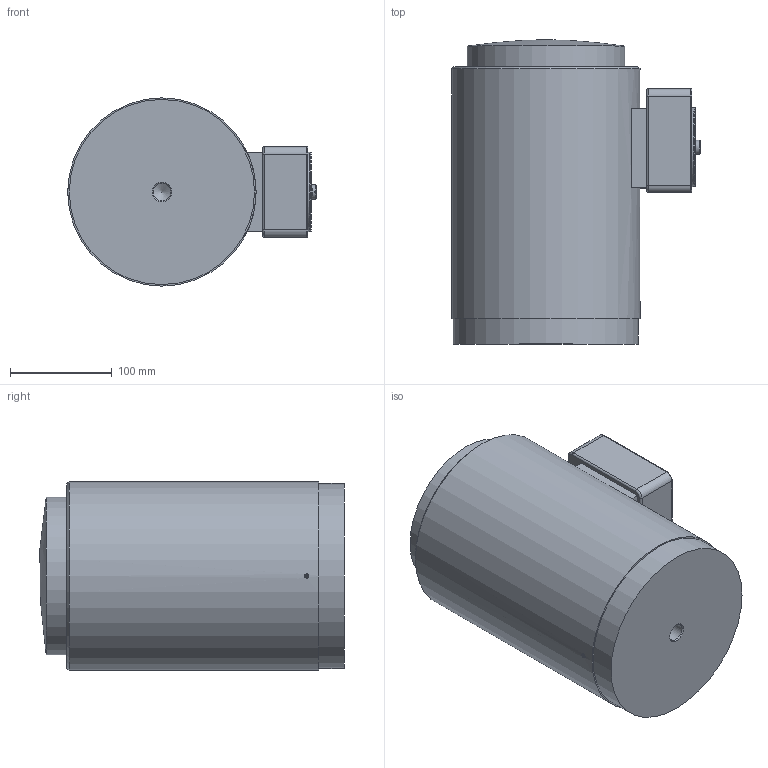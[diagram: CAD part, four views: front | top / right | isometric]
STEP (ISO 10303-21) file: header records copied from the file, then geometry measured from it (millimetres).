
FILE_DESCRIPTION(/* description */ (''),/* implementation_level */ '2;1');
FILE_NAME(/* name */ 'WNI300TC.stp',/* time_stamp */ '2024-12-04T16:20:58Z',/* author */ ('Achacko'),/* organization */ (''),/* preprocessor_version */ 'ST-DEVELOPER v20',/* originating_system */ 'Autodesk Inventor 2025',/* authorisation */ '');
FILE_SCHEMA (('AUTOMOTIVE_DESIGN { 1 0 10303 214 3 1 1 }'));
Length unit declared in the file: millimetre
Products named in the file (1): WNI300TC_Simplify_1
Bounding box: 244.17 x 299.22 x 185 mm (x, y, z)
Volume: 8191040.1 mm3; surface area: 562159.4 mm2
Topology: 5 solids, 44 shells, 782 faces, 1880 edges, 1198 vertices
Faces by surface type: plane 429, cylinder 213, cone 57, torus 50, bspline 32, sphere 1
Full cylindrical faces by diameter (mm): 2.1 x1, 2.5 x2, 3.242 x8, 4 x8, 4.1 x2, 4.2 x8, 4.3 x2, 5 x6, 5.2 x4, 5.54 x4, 6.647 x2, 7 x1, 8 x4, 8.1 x1, 8.5 x4, 8.7 x4, 9 x4, 12 x3, 14 x1, 15 x1, 15.7 x2, 16 x1, 16.7 x2, 17.294 x1, 18 x2, 24 x1, 38 x2, 40 x1, 44 x1, 70.2 x1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
Entity records: 24833 total; most frequent: CARTESIAN_POINT 5523, DIRECTION 3836, ORIENTED_EDGE 3744, EDGE_CURVE 1872, AXIS2_PLACEMENT_3D 1415, VERTEX_POINT 1198, LINE 1006, VECTOR 1006
